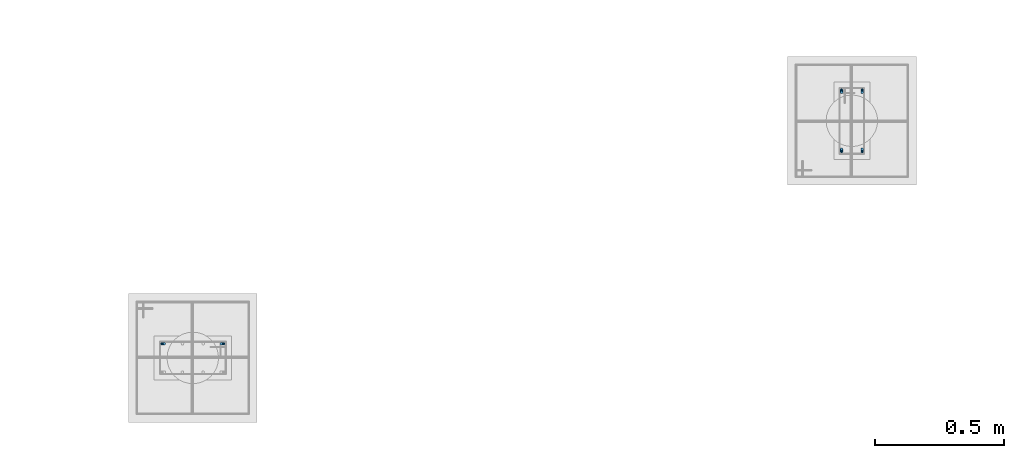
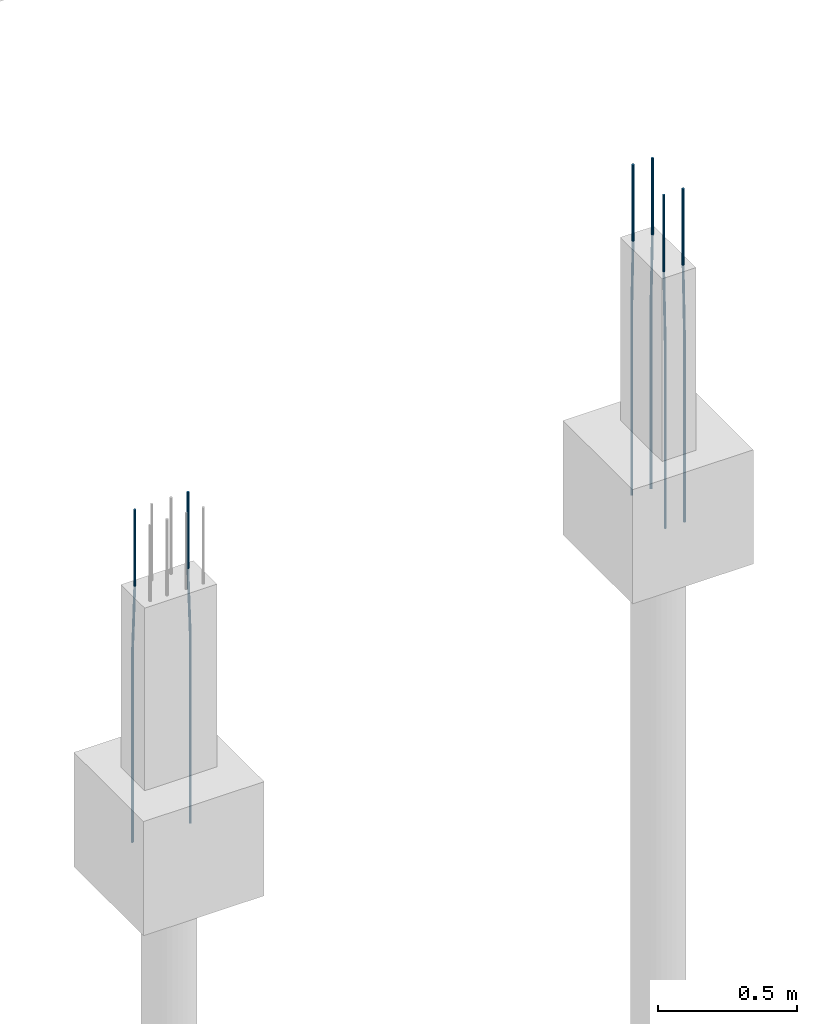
# One storey, part 59 of 119: 6 reinforcing bars.
"""IFC4 building model written with IfcOpenShell, lengths in centimetres."""

import ifcopenshell
import ifcopenshell.guid

model = None  # the IFC model being written
_history = None  # IfcOwnerHistory: only IFC2X3 demands one
_inside = {}  # id of a spatial element -> (the spatial element, [elements in it])
_under = {}  # id of a project, library or spatial element -> (it, [spatial elements below it])
_declared = {}  # id of a project -> (the project, [libraries it declares])
_typed = {}  # id of a type object -> (the type object, [elements of that type])
_made_of = {}  # id of a material, layer set ... -> (it, [elements and type objects made of it])


def new_model(schema):
    """Start an empty IFC model of exactly this schema.

    Asked for "IFC4X3", IfcOpenShell would pick the latest addendum, in which some entities
    have other attributes; the version numbers below select the first issue.
    IFC2X3 requires an IfcOwnerHistory on every rooted entity: one is made here for all.
    """
    global model, _history
    if schema == "IFC4X3":
        model = ifcopenshell.file(schema_version=(4, 3, 0, 0))
    else:
        model = ifcopenshell.file(schema=schema)
    _inside.clear()
    _under.clear()
    _declared.clear()
    _typed.clear()
    _made_of.clear()
    _history = None
    if model.schema == "IFC2X3":
        org = make("IfcOrganization", Name="unknown")
        user = make(
            "IfcPersonAndOrganization",
            ThePerson=make("IfcPerson", FamilyName="unknown"),
            TheOrganization=org,
        )
        app = make(
            "IfcApplication",
            ApplicationDeveloper=org,
            Version="unknown",
            ApplicationFullName="unknown",
            ApplicationIdentifier="unknown",
        )
        _history = make(
            "IfcOwnerHistory",
            OwningUser=user,
            OwningApplication=app,
            ChangeAction="ADDED",
            CreationDate=0,
        )
    return model


def make(cls, **values):
    """One entity of the class cls with the attributes given. An attribute that is None is left unset."""
    return model.create_entity(
        cls, **{name: value for name, value in values.items() if value is not None}
    )


def entity(cls, *values):
    """Any entity or typed value of the class cls, its attributes in the order of the schema. None: left unset."""
    e = model.create_entity(cls)
    for i, value in enumerate(values):
        if value is not None:
            e[i] = value
    return e


def rooted(cls, **values):
    """An entity with a GlobalId (a new one), such as an element, a storey or a relation."""
    return make(cls, GlobalId=ifcopenshell.guid.new(), OwnerHistory=_history, **values)


def si_unit(unit_type, name, prefix=None):
    """IfcSIUnit, for example si_unit("LENGTHUNIT", "METRE", prefix="MILLI")."""
    return make("IfcSIUnit", UnitType=unit_type, Prefix=prefix, Name=name)


def derived_unit(unit_type, elements):
    """IfcDerivedUnit: a product of units, each with its exponent."""
    return make(
        "IfcDerivedUnit",
        Elements=[
            make("IfcDerivedUnitElement", Unit=unit, Exponent=power)
            for unit, power in elements
        ],
        UnitType=unit_type,
    )


def assignment(units):
    """IfcUnitAssignment: the units of a project."""
    return None if units is None else make("IfcUnitAssignment", Units=units)


def point(xyz):
    """IfcCartesianPoint."""
    return None if xyz is None else make("IfcCartesianPoint", Coordinates=xyz)


def direction(xyz):
    """IfcDirection."""
    return None if xyz is None else make("IfcDirection", DirectionRatios=xyz)


def frame(location, z_axis=None, x_axis=None):
    """IfcAxis2Placement3D, a coordinate frame: its origin and axes. An axis left out is left unset."""
    return make(
        "IfcAxis2Placement3D",
        Location=point(location),
        Axis=direction(z_axis),
        RefDirection=direction(x_axis),
    )


def origin_with_axes():
    """The frame at (0, 0, 0) with the z axis (0, 0, 1) and the x axis (1, 0, 0) written out."""
    return frame((0.0, 0.0, 0.0), z_axis=(0.0, 0.0, 1.0), x_axis=(1.0, 0.0, 0.0))


def place(relative_to, where):
    """IfcLocalPlacement: puts the frame where relative to a parent placement (None: the world)."""
    return make(
        "IfcLocalPlacement", PlacementRelTo=relative_to, RelativePlacement=where
    )


def context(
    kind, dimensions, precision=None, world=None, true_north=None, identifier=None
):
    """IfcGeometricRepresentationContext, for example the 3D "Model" context."""
    return make(
        "IfcGeometricRepresentationContext",
        ContextIdentifier=identifier,
        ContextType=kind,
        CoordinateSpaceDimension=dimensions,
        Precision=precision,
        WorldCoordinateSystem=world,
        TrueNorth=true_north,
    )


def project(units=None, contexts=None):
    """IfcProject with its units and contexts."""
    return rooted(
        "IfcProject",
        Name="project",
        RepresentationContexts=contexts,
        UnitsInContext=assignment(units),
    )


def spatial(cls, under=None, at=None, **own):
    """A site, building, storey or space (cls), placed at a placement, below another one or the project."""
    s = rooted(cls, ObjectPlacement=at, **own)
    if under is not None:
        _under.setdefault(under.id(), (under, []))[1].append(s)
    return s


def shape(context_of_items, identifier, shape_type, items):
    """IfcShapeRepresentation: the items that make up one representation, for example the "Body"."""
    return make(
        "IfcShapeRepresentation",
        ContextOfItems=context_of_items,
        RepresentationIdentifier=identifier,
        RepresentationType=shape_type,
        Items=items,
    )


def made_of(thing, what):
    """Note that an element or type object is made of a material, layer set ...; save() writes the relation."""
    if what is not None:
        _made_of.setdefault(what.id(), (what, []))[1].append(thing)
    return thing


def element(
    cls,
    number,
    at=None,
    inside=None,
    cuts=None,
    type_object=None,
    material=None,
    context=None,
    identifier="Body",
    shape_type=None,
    held_by="IfcProductDefinitionShape",
    body=None,
    shapes=None,
    **own,
):
    """One element of the class cls, such as IfcWall. Its Tag is "e" and its number.

    at: its placement. inside: the storey or other place that contains it. cuts: it is an
    opening in that element (IfcRelVoidsElement). A single representation is given by context,
    identifier, shape_type and body (its items); several are given by shapes. held_by: the class
    of the entity that holds the representations. save() writes the other relations.
    """
    e = rooted(cls, Tag="e%d" % number, ObjectPlacement=at, **own)
    if body is not None:
        shapes = [shape(context, identifier, shape_type, body)]
    if shapes is not None:
        e.Representation = make(held_by, Representations=shapes)
    if inside is not None:
        _inside.setdefault(inside.id(), (inside, []))[1].append(e)
    if cuts is not None:
        rooted(
            "IfcRelVoidsElement", RelatingBuildingElement=cuts, RelatedOpeningElement=e
        )
    if type_object is not None:
        _typed.setdefault(type_object.id(), (type_object, []))[1].append(e)
    return made_of(e, material)


def aggregate(whole, parts):
    """IfcRelAggregates: a whole, such as a stair, and the parts it consists of."""
    return rooted("IfcRelAggregates", RelatingObject=whole, RelatedObjects=parts)


def save(model, path):
    """Write the relations noted so far, then the file.

    IfcRelAggregates (storeys below a building ...), IfcRelContainedInSpatialStructure (elements
    in a storey), IfcRelDefinesByType, IfcRelAssociatesMaterial and IfcRelDeclares: one each for
    every whole, place, type object, material and project.
    """
    for whole, parts in _under.values():
        aggregate(whole, parts)
    for where, things in _inside.values():
        rooted(
            "IfcRelContainedInSpatialStructure",
            RelatedElements=things,
            RelatingStructure=where,
        )
    for kind, things in _typed.values():
        rooted("IfcRelDefinesByType", RelatedObjects=things, RelatingType=kind)
    for what, things in _made_of.values():
        rooted("IfcRelAssociatesMaterial", RelatedObjects=things, RelatingMaterial=what)
    for by, libraries in _declared.values():
        rooted("IfcRelDeclares", RelatingContext=by, RelatedDefinitions=libraries)
    model.write(path)


model = new_model("IFC4")

# Units and contexts
model_context = context("Model", 3, precision=1e-05, world=origin_with_axes(), identifier="Body")
ifc_project = project(units=[si_unit("LENGTHUNIT", "METRE", prefix="CENTI"), si_unit("VOLUMEUNIT", "CUBIC_METRE"), si_unit("AREAUNIT", "SQUARE_METRE"), si_unit("POWERUNIT", "WATT"), si_unit("LUMINOUSFLUXUNIT", "LUMEN"), si_unit("ELECTRICCURRENTUNIT", "AMPERE"), si_unit("PRESSUREUNIT", "PASCAL", prefix="KILO"), si_unit("MASSUNIT", "GRAM", prefix="KILO"), si_unit("PLANEANGLEUNIT", "RADIAN"), derived_unit("VOLUMETRICFLOWRATEUNIT", [(si_unit("LENGTHUNIT", "METRE"), 3), (si_unit("TIMEUNIT", "SECOND"), -1)])], contexts=[model_context])

# Site, building, storey
site_placement = place(None, frame((-4000.0, 0.0, 0.0), z_axis=(0.0, 0.0, 1.0), x_axis=(1.0, 0.0, 0.0)))
site = spatial("IfcSite", under=ifc_project, at=site_placement, Name="PADRÃO")
building_placement = place(site_placement, frame((0.0, 0.0, -14.0)))
building = spatial("IfcBuilding", under=site, at=building_placement, Name="CRECHE PRÉ-ESCOLA TIPO 2")
storey_placement = place(building_placement, origin_with_axes())
storey = spatial("IfcBuildingStorey", under=building, at=storey_placement, Name="FUNDAÇÃO", CompositionType="ELEMENT", Elevation=-14.0)

# Reinforcing bars
reinforcing_bar_1_placement = place(storey_placement, frame((2518.5, 4088.52, 33.3573001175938), z_axis=(0.0, 0.0, 1.0), x_axis=(1.0, 0.0, 0.0)))
element("IfcReinforcingBar", 1, at=reinforcing_bar_1_placement, inside=storey, Name="P20 - Longitudinal", BarLength=0.0, CrossSectionArea=7.853981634e-05, NominalDiameter=1.0, PredefinedType="MAIN", context=model_context, shape_type="AdvancedSweptSolid", body=[
    entity("IfcSweptDiskSolid", entity("IfcCompositeCurve", [entity("IfcCompositeCurveSegment", "CONTINUOUS", True, entity("IfcPolyline", [entity("IfcCartesianPoint", [0.0, 0.5, -145.357300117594]), entity("IfcCartesianPoint", [0.0, 0.5, -63.3573001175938])])), entity("IfcCompositeCurveSegment", "CONTINUOUS", True, entity("IfcPolyline", [entity("IfcCartesianPoint", [0.0, 0.5, -63.3573001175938]), entity("IfcCartesianPoint", [0.0, -0.5, -33.3573001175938])])), entity("IfcCompositeCurveSegment", "CONTINUOUS", True, entity("IfcPolyline", [entity("IfcCartesianPoint", [0.0, -0.5, -33.3573001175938]), entity("IfcCartesianPoint", [0.0, -0.5, 0.0])]))], False), 0.5),
])
for number, where, z_axis, x_axis, name in (
    (2, (2526.5, 4065.52, 33.3573001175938), (0.0, 0.0, 1.0), (1.0, 0.0, 0.0), "P20 - Longitudinal"),
    (3, (2518.5, 4065.52, 33.3573001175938), (0.0, 0.0, 1.0), (1.0, 0.0, 0.0), "P20 - Longitudinal"),
):
    element("IfcReinforcingBar", number, at=place(storey_placement, frame(where, z_axis=z_axis, x_axis=x_axis)), inside=storey, Name=name, BarLength=0.0, CrossSectionArea=7.853981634e-05, NominalDiameter=1.0, PredefinedType="MAIN", context=model_context, shape_type="AdvancedSweptSolid", body=[
        entity("IfcSweptDiskSolid", entity("IfcCompositeCurve", [entity("IfcCompositeCurveSegment", "CONTINUOUS", True, entity("IfcPolyline", [entity("IfcCartesianPoint", [0.0, -0.5, -145.357300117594]), entity("IfcCartesianPoint", [0.0, -0.5, -63.3573001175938])])), entity("IfcCompositeCurveSegment", "CONTINUOUS", True, entity("IfcPolyline", [entity("IfcCartesianPoint", [0.0, -0.5, -63.3573001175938]), entity("IfcCartesianPoint", [0.0, 0.5, -33.3573001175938])])), entity("IfcCompositeCurveSegment", "CONTINUOUS", True, entity("IfcPolyline", [entity("IfcCartesianPoint", [0.0, 0.5, -33.3573001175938]), entity("IfcCartesianPoint", [0.0, 0.5, 0.0])]))], False), 0.5),
    ])
reinforcing_bar_2_placement = place(storey_placement, frame((2526.5, 4088.52, 33.3573001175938), z_axis=(0.0, 0.0, 1.0), x_axis=(1.0, 0.0, 0.0)))
element("IfcReinforcingBar", 4, at=reinforcing_bar_2_placement, inside=storey, Name="P20 - Longitudinal", BarLength=0.0, CrossSectionArea=7.853981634e-05, NominalDiameter=1.0, PredefinedType="MAIN", context=model_context, shape_type="AdvancedSweptSolid", body=[
    entity("IfcSweptDiskSolid", entity("IfcCompositeCurve", [entity("IfcCompositeCurveSegment", "CONTINUOUS", True, entity("IfcPolyline", [entity("IfcCartesianPoint", [0.0, 0.5, -145.357300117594]), entity("IfcCartesianPoint", [0.0, 0.5, -63.3573001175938])])), entity("IfcCompositeCurveSegment", "CONTINUOUS", True, entity("IfcPolyline", [entity("IfcCartesianPoint", [0.0, 0.5, -63.3573001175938]), entity("IfcCartesianPoint", [0.0, -0.5, -33.3573001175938])])), entity("IfcCompositeCurveSegment", "CONTINUOUS", True, entity("IfcPolyline", [entity("IfcCartesianPoint", [0.0, -0.5, -33.3573001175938]), entity("IfcCartesianPoint", [0.0, -0.5, 0.0])]))], False), 0.5),
])
reinforcing_bar_3_placement = place(storey_placement, frame((2255.26, 3990.5, 33.3573001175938), z_axis=(0.0, 0.0, 1.0), x_axis=(1.0, 0.0, 0.0)))
element("IfcReinforcingBar", 5, at=reinforcing_bar_3_placement, inside=storey, Name="P26 - Longitudinal", BarLength=0.0, CrossSectionArea=7.853981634e-05, NominalDiameter=1.0, PredefinedType="MAIN", context=model_context, shape_type="AdvancedSweptSolid", body=[
    entity("IfcSweptDiskSolid", entity("IfcCompositeCurve", [entity("IfcCompositeCurveSegment", "CONTINUOUS", True, entity("IfcPolyline", [entity("IfcCartesianPoint", [-0.5, 0.0, -145.357300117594]), entity("IfcCartesianPoint", [-0.5, 0.0, -63.3573001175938])])), entity("IfcCompositeCurveSegment", "CONTINUOUS", True, entity("IfcPolyline", [entity("IfcCartesianPoint", [-0.5, 0.0, -63.3573001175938]), entity("IfcCartesianPoint", [0.5, 0.0, -33.3573001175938])])), entity("IfcCompositeCurveSegment", "CONTINUOUS", True, entity("IfcPolyline", [entity("IfcCartesianPoint", [0.5, 0.0, -33.3573001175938]), entity("IfcCartesianPoint", [0.5, 0.0, 0.0])]))], False), 0.5),
])
reinforcing_bar_4_placement = place(storey_placement, frame((2278.26, 3990.5, 33.3573001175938), z_axis=(0.0, 0.0, 1.0), x_axis=(1.0, 0.0, 0.0)))
element("IfcReinforcingBar", 6, at=reinforcing_bar_4_placement, inside=storey, Name="P26 - Longitudinal", BarLength=0.0, CrossSectionArea=7.853981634e-05, NominalDiameter=1.0, PredefinedType="MAIN", context=model_context, shape_type="AdvancedSweptSolid", body=[
    entity("IfcSweptDiskSolid", entity("IfcCompositeCurve", [entity("IfcCompositeCurveSegment", "CONTINUOUS", True, entity("IfcPolyline", [entity("IfcCartesianPoint", [0.5, 0.0, -145.357300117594]), entity("IfcCartesianPoint", [0.5, 0.0, -63.3573001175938])])), entity("IfcCompositeCurveSegment", "CONTINUOUS", True, entity("IfcPolyline", [entity("IfcCartesianPoint", [0.5, 0.0, -63.3573001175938]), entity("IfcCartesianPoint", [-0.5, 0.0, -33.3573001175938])])), entity("IfcCompositeCurveSegment", "CONTINUOUS", True, entity("IfcPolyline", [entity("IfcCartesianPoint", [-0.5, 0.0, -33.3573001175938]), entity("IfcCartesianPoint", [-0.5, 0.0, 0.0])]))], False), 0.5),
])

save(model, "model.ifc")
